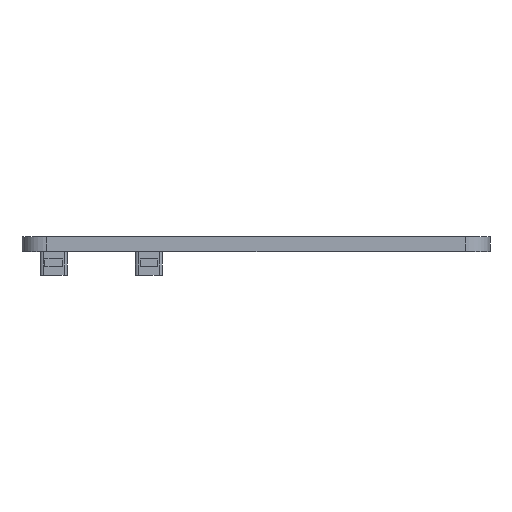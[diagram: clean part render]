
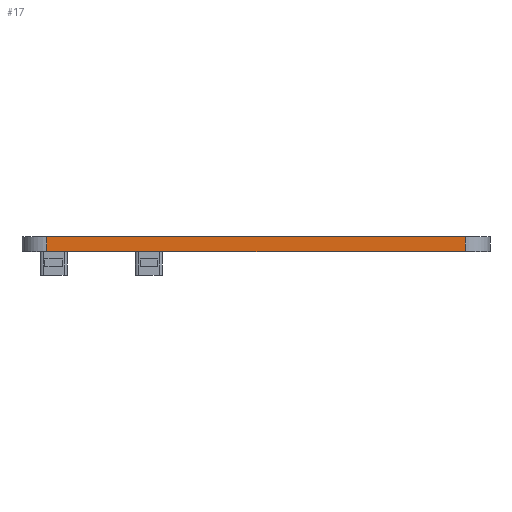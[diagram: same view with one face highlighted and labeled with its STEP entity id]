
A CAD part, left-side view. The second image highlights one B-rep face of the part: STEP entity #17.
In plain terms, the highlighted planar face has unit normal (-1, 0, 0).
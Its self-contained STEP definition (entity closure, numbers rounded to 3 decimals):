
#17 = ADVANCED_FACE('',(#18),#32,.F.);
#18 = FACE_BOUND('',#19,.F.);
#19 = EDGE_LOOP('',(#20,#55,#83,#111));
#20 = ORIENTED_EDGE('',*,*,#21,.F.);
#21 = EDGE_CURVE('',#22,#24,#26,.T.);
#22 = VERTEX_POINT('',#23);
#23 = CARTESIAN_POINT('',(-47.,-42.,25.));
#24 = VERTEX_POINT('',#25);
#25 = CARTESIAN_POINT('',(-47.,42.,25.));
#26 = SURFACE_CURVE('',#27,(#31,#43),.PCURVE_S1.);
#27 = LINE('',#28,#29);
#28 = CARTESIAN_POINT('',(-47.,-47.,25.));
#29 = VECTOR('',#30,1.);
#30 = DIRECTION('',(0.,1.,0.));
#31 = PCURVE('',#32,#37);
#32 = PLANE('',#33);
#33 = AXIS2_PLACEMENT_3D('',#34,#35,#36);
#34 = CARTESIAN_POINT('',(-47.,-47.,22.));
#35 = DIRECTION('',(1.,0.,0.));
#36 = DIRECTION('',(0.,0.,1.));
#37 = DEFINITIONAL_REPRESENTATION('',(#38),#42);
#38 = LINE('',#39,#40);
#39 = CARTESIAN_POINT('',(3.,0.));
#40 = VECTOR('',#41,1.);
#41 = DIRECTION('',(0.,-1.));
#42 = ( GEOMETRIC_REPRESENTATION_CONTEXT(2) 
PARAMETRIC_REPRESENTATION_CONTEXT() REPRESENTATION_CONTEXT('2D SPACE',''
  ) );
#43 = PCURVE('',#44,#49);
#44 = PLANE('',#45);
#45 = AXIS2_PLACEMENT_3D('',#46,#47,#48);
#46 = CARTESIAN_POINT('',(-47.,-47.,25.));
#47 = DIRECTION('',(0.,0.,1.));
#48 = DIRECTION('',(1.,0.,-0.));
#49 = DEFINITIONAL_REPRESENTATION('',(#50),#54);
#50 = LINE('',#51,#52);
#51 = CARTESIAN_POINT('',(0.,0.));
#52 = VECTOR('',#53,1.);
#53 = DIRECTION('',(0.,1.));
#54 = ( GEOMETRIC_REPRESENTATION_CONTEXT(2) 
PARAMETRIC_REPRESENTATION_CONTEXT() REPRESENTATION_CONTEXT('2D SPACE',''
  ) );
#55 = ORIENTED_EDGE('',*,*,#56,.F.);
#56 = EDGE_CURVE('',#57,#22,#59,.T.);
#57 = VERTEX_POINT('',#58);
#58 = CARTESIAN_POINT('',(-47.,-42.,22.));
#59 = SURFACE_CURVE('',#60,(#64,#71),.PCURVE_S1.);
#60 = LINE('',#61,#62);
#61 = CARTESIAN_POINT('',(-47.,-42.,22.));
#62 = VECTOR('',#63,1.);
#63 = DIRECTION('',(0.,0.,1.));
#64 = PCURVE('',#32,#65);
#65 = DEFINITIONAL_REPRESENTATION('',(#66),#70);
#66 = LINE('',#67,#68);
#67 = CARTESIAN_POINT('',(0.,-5.));
#68 = VECTOR('',#69,1.);
#69 = DIRECTION('',(1.,0.));
#70 = ( GEOMETRIC_REPRESENTATION_CONTEXT(2) 
PARAMETRIC_REPRESENTATION_CONTEXT() REPRESENTATION_CONTEXT('2D SPACE',''
  ) );
#71 = PCURVE('',#72,#77);
#72 = CYLINDRICAL_SURFACE('',#73,5.);
#73 = AXIS2_PLACEMENT_3D('',#74,#75,#76);
#74 = CARTESIAN_POINT('',(-42.,-42.,22.));
#75 = DIRECTION('',(0.,0.,1.));
#76 = DIRECTION('',(-1.,-0.,0.));
#77 = DEFINITIONAL_REPRESENTATION('',(#78),#82);
#78 = LINE('',#79,#80);
#79 = CARTESIAN_POINT('',(0.,0.));
#80 = VECTOR('',#81,1.);
#81 = DIRECTION('',(0.,1.));
#82 = ( GEOMETRIC_REPRESENTATION_CONTEXT(2) 
PARAMETRIC_REPRESENTATION_CONTEXT() REPRESENTATION_CONTEXT('2D SPACE',''
  ) );
#83 = ORIENTED_EDGE('',*,*,#84,.T.);
#84 = EDGE_CURVE('',#57,#85,#87,.T.);
#85 = VERTEX_POINT('',#86);
#86 = CARTESIAN_POINT('',(-47.,42.,22.));
#87 = SURFACE_CURVE('',#88,(#92,#99),.PCURVE_S1.);
#88 = LINE('',#89,#90);
#89 = CARTESIAN_POINT('',(-47.,-47.,22.));
#90 = VECTOR('',#91,1.);
#91 = DIRECTION('',(0.,1.,0.));
#92 = PCURVE('',#32,#93);
#93 = DEFINITIONAL_REPRESENTATION('',(#94),#98);
#94 = LINE('',#95,#96);
#95 = CARTESIAN_POINT('',(0.,0.));
#96 = VECTOR('',#97,1.);
#97 = DIRECTION('',(0.,-1.));
#98 = ( GEOMETRIC_REPRESENTATION_CONTEXT(2) 
PARAMETRIC_REPRESENTATION_CONTEXT() REPRESENTATION_CONTEXT('2D SPACE',''
  ) );
#99 = PCURVE('',#100,#105);
#100 = PLANE('',#101);
#101 = AXIS2_PLACEMENT_3D('',#102,#103,#104);
#102 = CARTESIAN_POINT('',(-47.,-47.,22.));
#103 = DIRECTION('',(0.,0.,1.));
#104 = DIRECTION('',(1.,0.,-0.));
#105 = DEFINITIONAL_REPRESENTATION('',(#106),#110);
#106 = LINE('',#107,#108);
#107 = CARTESIAN_POINT('',(0.,0.));
#108 = VECTOR('',#109,1.);
#109 = DIRECTION('',(0.,1.));
#110 = ( GEOMETRIC_REPRESENTATION_CONTEXT(2) 
PARAMETRIC_REPRESENTATION_CONTEXT() REPRESENTATION_CONTEXT('2D SPACE',''
  ) );
#111 = ORIENTED_EDGE('',*,*,#112,.T.);
#112 = EDGE_CURVE('',#85,#24,#113,.T.);
#113 = SURFACE_CURVE('',#114,(#118,#125),.PCURVE_S1.);
#114 = LINE('',#115,#116);
#115 = CARTESIAN_POINT('',(-47.,42.,22.));
#116 = VECTOR('',#117,1.);
#117 = DIRECTION('',(0.,0.,1.));
#118 = PCURVE('',#32,#119);
#119 = DEFINITIONAL_REPRESENTATION('',(#120),#124);
#120 = LINE('',#121,#122);
#121 = CARTESIAN_POINT('',(0.,-89.));
#122 = VECTOR('',#123,1.);
#123 = DIRECTION('',(1.,0.));
#124 = ( GEOMETRIC_REPRESENTATION_CONTEXT(2) 
PARAMETRIC_REPRESENTATION_CONTEXT() REPRESENTATION_CONTEXT('2D SPACE',''
  ) );
#125 = PCURVE('',#126,#131);
#126 = CYLINDRICAL_SURFACE('',#127,5.);
#127 = AXIS2_PLACEMENT_3D('',#128,#129,#130);
#128 = CARTESIAN_POINT('',(-42.,42.,22.));
#129 = DIRECTION('',(0.,0.,1.));
#130 = DIRECTION('',(-1.,-0.,0.));
#131 = DEFINITIONAL_REPRESENTATION('',(#132),#136);
#132 = LINE('',#133,#134);
#133 = CARTESIAN_POINT('',(6.283,0.));
#134 = VECTOR('',#135,1.);
#135 = DIRECTION('',(-0.,1.));
#136 = ( GEOMETRIC_REPRESENTATION_CONTEXT(2) 
PARAMETRIC_REPRESENTATION_CONTEXT() REPRESENTATION_CONTEXT('2D SPACE',''
  ) );
